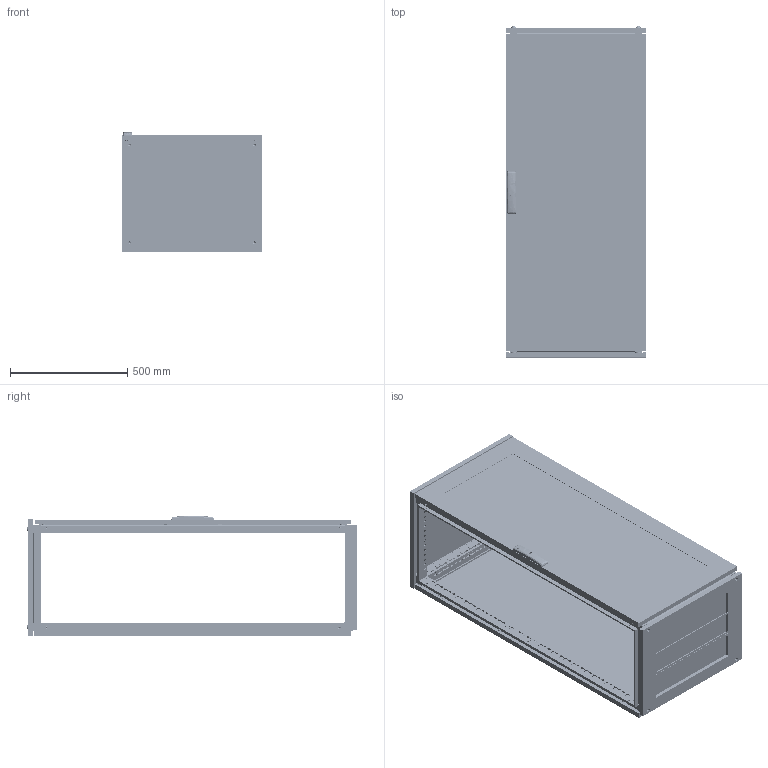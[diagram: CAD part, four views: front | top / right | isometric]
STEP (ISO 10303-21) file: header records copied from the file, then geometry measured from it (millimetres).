
FILE_DESCRIPTION (( 'STEP AP203' ), '1' );
FILE_NAME ('R5CQEN1465AX.STEP', '2025-05-16T07:01:01', ( '' ), ( '' ), 'SwSTEP 2.0', 'SolidWorks 2022', '' );
FILE_SCHEMA (( 'CONFIG_CONTROL_DESIGN' ));
Length unit declared in the file: millimetre
Products named in the file (66): RB.2755.00.00.0 СБ simple_-13.STEP; R5NCPTE - Assem simple_R5NCPTE1460.STEP; M6x15 Erickson cl.4,8 Zinc.STEP; RB.2052.00.00.0 СБ simple_-06.STEP; RB.0054.01.01.0 simple_-06.STEP; RB.1867.01.00.0 СБ simple_-55.STEP; RB.2455.00.00.0 simple_-02.STEP; M6 MGR-MKO-0625 simple_Thread.STEP; M12x16 ISO 7380-1 HX cl.4,8 Zinc_straight.STEP; TPA.08.0139.00.03.0.STEP; M6x10 DIN 912 HX cl.8,8 Zinc_straight.STEP; M6x10 DIN 7500 E HX cl.5.8 Zinc_straight.STEP; RB.2702.00.00.0 simple.STEP; RB.2457.00.00.0 СБ simple_-13.STEP; M12x16 ISO 7380-1 HX cl.4,8 Zinc_straight; RB.2696.00.00.0 simple.STEP; Glass CPTE_1400x0600.STEP; RB.1633.00.02.0 simple_-01.STEP; RB.2456.00.00.0 simple_-01.STEP; M6x10 DIN 7500 M Torx cl.5.8 Zinc_straight.STEP; M6 DIN 985 cl.6,0 Zinc_straight.STEP; Glue CPTE simple_1400x0600.STEP; R5CQEN1465AX; RB.2499.01.00.0 СБ simple_-12.STEP; RB.0562.01.01.0 simple_-06.STEP; TPA.08.0083.00.00.0 simple.STEP; Square cap 20x20 simple.STEP; RB.0528.04.00.0 СБ simple.STEP; R5NCRE-Assem simple_R5NCRE1460.STEP; RB.0562.01.00.0 СБ simple_-06.STEP; RB.0562.00.00.0 СБ simple_-06.STEP; AC00C446-R.STEP; RB.2528.00.00.0 simple_-02.STEP; RB.2172.00.00.1 simple.STEP; RB.2968.00.00.0 simple.STEP; Pin 4x16 DIN 7 AISI 303 (A1) simple.STEP; R5NKTB - Assem simple_H=1400 R5NKTB65.STEP; RB.2969.00.01.0 simple.STEP; ATOS Traction guide ILY03.35.STEP; RB.2680.00.00.0 СБ simple.STEP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
Assembly tree (173 placements, depth 5):
  R5CQEN1465AX
    R5NCPTE - Assem simple_R5NCPTE1460.STEP
      RB.0562.00.00.0 СБ simple_-06.STEP
        RB.0562.01.00.0 СБ simple_-06.STEP
          RB.0562.01.01.0 simple_-06.STEP
          М6х12 A5100231_straight.STEP  x7
          RB.2702.00.00.0 simple.STEP  x4
          PF 7,5x15 CPE simple_1400x0600.STEP
          Glass CPTE_1400x0600.STEP
          Glue CPTE simple_1400x0600.STEP
        RB.2680.00.00.0 СБ simple.STEP
          TPA.08.0139.00.01.0 simple.STEP
          RB.2680.00.01.0 simple.STEP
          RB.2680.00.02.0 simple.STEP  x2
        RB.0528.04.00.0 СБ simple.STEP  x2
          RB.0528.04.01.0 simple.STEP
          Pressing stud FH-M6-12_M6x12mm.STEP
        Square cap 20x20 simple.STEP  x2
        M6x15 Erickson cl.4,8 Zinc.STEP  x2
        RB.0528.00.01.0 simple_-02.STEP  x2
        ATOS Traction guide ILY03.35.STEP  x4
        RB.2357.00.00.0 simple_-03.STEP
        TPA.08.0139.00.03.0.STEP  x2
        M6 DIN 985 cl.6,0 Zinc_straight.STEP  x4
        4,0x16 F Torx Zinc (ART 88200)_thread.STEP  x2
      RB.2969.00.00.0 СБ simple.STEP  x4
        RB.2969.00.01.0 simple.STEP
        Pin 4x16 DIN 7 AISI 303 (A1) simple.STEP
        M6 MGR-MKO-0625 simple_Thread.STEP
      M6x10 DIN 912 HX cl.8,8 Zinc_straight.STEP  x8
      4.8x13 DIN 7981 PH Zinc_straight.STEP
      7 DIN 6799 Zinc simple.STEP  x4
      RB.2968.00.00.0 simple.STEP  x4
      AC00C446-R.STEP
      RB.2696.00.00.0 simple.STEP  x4
      7 DIN 6799 Zinc.STEP  x4
    R5NCRE-Assem simple_R5NCRE1460.STEP
      RB.2052.00.00.0 СБ simple_-06.STEP
        RB.2052.01.00.0 СБ simple_-06.STEP
          RB.0054.01.01.0 simple_-06.STEP
          М6х12 A5100231_straight.STEP  x4
        PF 7x14 CRE simple_1400x0600.STEP
      RB.2172.00.00.1 simple.STEP  x8
      M6x10 DIN 7500 E HX cl.5.8 Zinc_straight.STEP  x8
      M6x10 DIN 7500 M Torx cl.5.8 Zinc_straight.STEP  x8
    R5NKMN - Assem simple_R5NKMN14 (600х500).STEP
      RB.2528.00.00.0 simple_-02.STEP  x4
    R5NKTB - Assem simple_H=1400 R5NKTB65.STEP
      RB.2499.00.00.0 СБ simple_-13.STEP
        RB.2499.01.00.0 СБ simple_-12.STEP
          RB.1633.00.01.0 simple_-02.STEP  x2
          RB.1633.00.02.0 simple_-01.STEP  x2
          PF 5x10 KTB simple_600х500.STEP
        RB.2457.00.00.0 СБ simple_-13.STEP
          RB.2455.00.00.0 simple_-02.STEP  x2
          RB.2456.00.00.0 simple_-01.STEP  x2
          TPA.08.0084.00.00.0 simple.STEP  x2
          TPA.08.0083.00.00.0 simple.STEP  x2
          M8x12 AC00C476 cl.8,8 Zinc_stright.STEP  x4
        RB.1957.00.00.0 simple_-05.STEP  x3
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Bounding box: 600 x 1413.3 x 514.74 mm (x, y, z)
Volume: 10052033.2 mm3; surface area: 9894762.4 mm2
Topology: 172 solids, 332 shells, 18677 faces, 52702 edges, 34622 vertices
Faces by surface type: plane 10539, cylinder 6597, cone 704, bspline 435, torus 368, sphere 34
Full cylindrical faces by diameter (mm): 10.5 x20
Entity records: 213792 total; most frequent: CARTESIAN_POINT 81995, ORIENTED_EDGE 27712, DIRECTION 20517, EDGE_CURVE 14031, VERTEX_POINT 9269, AXIS2_PLACEMENT_3D 7407, EDGE_LOOP 6463, B_SPLINE_CURVE_WITH_KNOTS 5868
